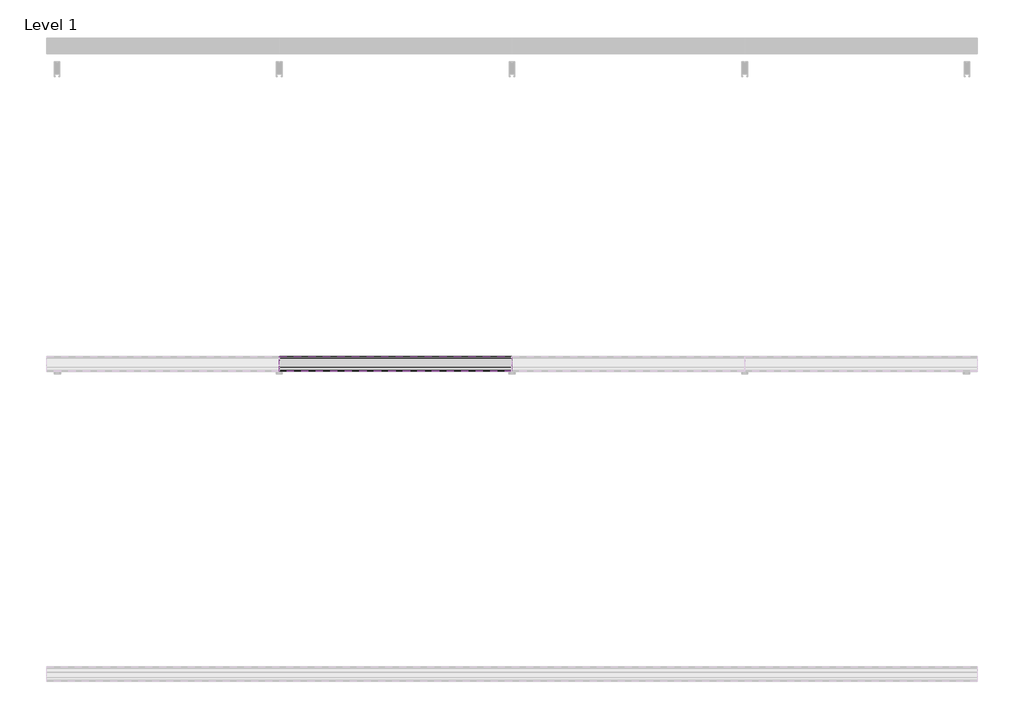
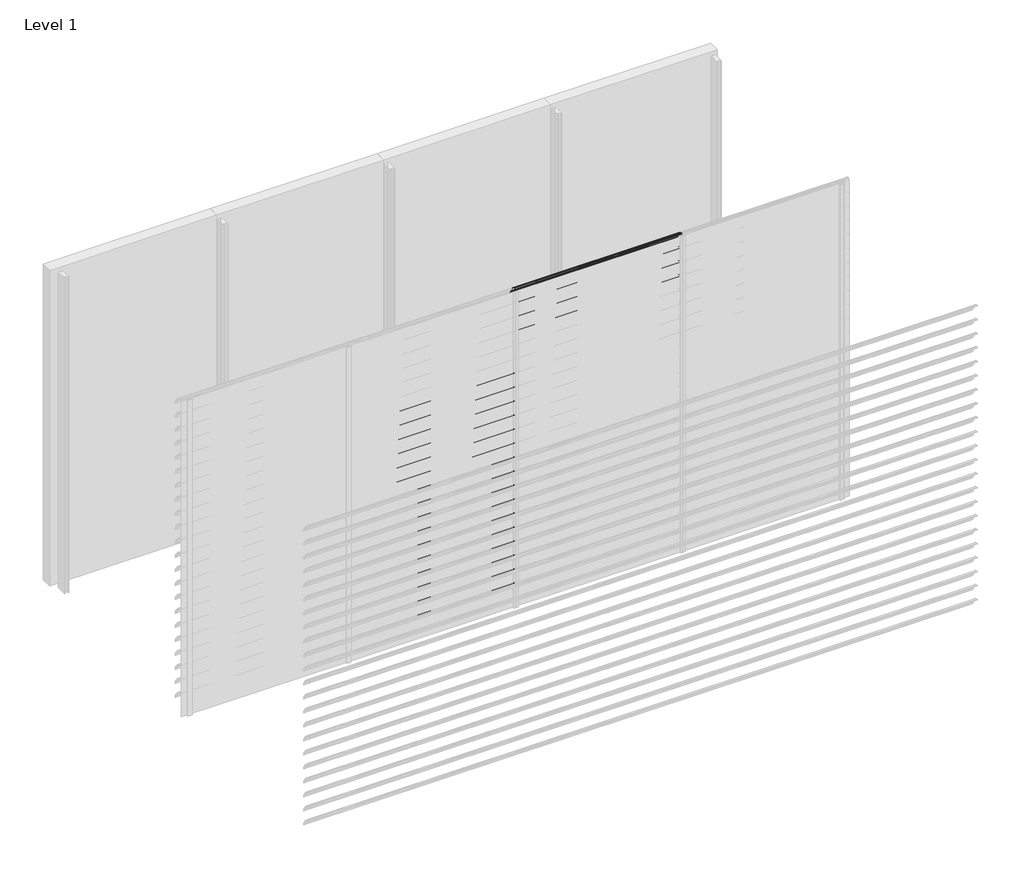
# One storey, part 33 of 57: 20 proxies.
"""IFC4 building model written with IfcOpenShell, lengths in millimetres."""

from ifc_helpers import new_model, si_unit, point, frame, frame_2d, origin, place, context, project, spatial, polyline, circle_curve, trimmed, segment, composite_curve, outline, extrude, element, save

model = new_model("IFC4")

# Units and contexts
model_context = context("Model", 3, world=origin())
ifc_project = project(units=[si_unit("LENGTHUNIT", "METRE", prefix="MILLI")], contexts=[model_context])

# Site, building, storey
site = spatial("IfcSite", under=ifc_project)
building = spatial("IfcBuilding", under=site)
storey = spatial("IfcBuildingStorey", under=building, Name="Level 1", Elevation=0.0)

# Proxies
placement = place(None, origin())
element("IfcBuildingElementProxy", 1, Name="Wall Sweeps", at=placement, inside=storey, context=model_context, shape_type="SweptSolid", body=[
    extrude(outline(composite_curve([segment(trimmed(circle_curve(frame_2d((-23993.7822526, 2218.4913792)), 4.2177474), [point((-23989.6985606, 2219.5462976))], [point((-23993.7822526, 2222.7091266))], False, "CARTESIAN"), True, "CONTINUOUS"), segment(trimmed(circle_curve(frame_2d((-24018.7150834, 2120.2536312)), 105.4456002), [point((-23993.7822526, 2222.7091266))], [point((-23971.7914298, 2214.6832099))], False, "CARTESIAN"), True, "CONTINUOUS"), segment(trimmed(circle_curve(frame_2d((-24061.7199745, 2066.0352476)), 173.7335887), [point((-23971.7914298, 2214.6832099))], [point((-23913.0720121, 2155.9637922))], False, "CARTESIAN"), True, "CONTINUOUS"), segment(trimmed(circle_curve(frame_2d((-24004.9297178, 2104.1860314)), 105.4456002), [point((-23913.0720121, 2155.9637922))], [point((-23903.6249616, 2133.4455765))], False, "CARTESIAN"), True, "CONTINUOUS"), segment(trimmed(circle_curve(frame_2d((-23907.809737, 2132.3307305)), 4.3307305), [point((-23903.6249616, 2133.4455765))], [point((-23909.0769196, 2128.189538))], False, "CARTESIAN"), True, "CONTINUOUS"), segment(polyline([(-23909.0769196, 2128.189538), (-23934.7401984, 2152.9722783)]), True, "CONTINUOUS"), segment(trimmed(circle_curve(frame_2d((-23931.3879574, 2155.2977626)), 4.079877), [point((-23934.7401984, 2152.9722783))], [point((-23930.7310597, 2159.3244091))], False, "CARTESIAN"), True, "CONTINUOUS"), segment(trimmed(circle_curve(frame_2d((-24014.6665585, 2137.2544323)), 86.7885467), [point((-23930.7310597, 2159.3244091))], [point((-23942.3028351, 2185.1683485))], True, "CARTESIAN"), True, "CONTINUOUS"), segment(polyline([(-23942.3028351, 2185.1683485), (-23940.7230099, 2187.9046861)]), True, "CONTINUOUS"), segment(trimmed(circle_curve(frame_2d((-24061.7199745, 2066.0352476)), 171.7335887), [point((-23940.7230099, 2187.9046861))], [point((-23972.7555872, 2212.9289618))], True, "CARTESIAN"), True, "CONTINUOUS"), segment(trimmed(circle_curve(frame_2d((-24018.7150834, 2120.2536312)), 103.4456002), [point((-23972.7555872, 2212.9289618))], [point((-23989.6985606, 2219.5462976))], True, "CARTESIAN"), True, "CONTINUOUS")], self_intersect=False)), frame((1500.0, 0.0, 0.0), z_axis=(1.0, 0.0, 0.0), x_axis=(0.0, 1.0, 0.0)), (0.0, 0.0, 1.0), 1500.0),
])
element("IfcBuildingElementProxy", 2, Name="Wall Sweeps", at=placement, inside=storey, context=model_context, shape_type="SweptSolid", body=[
    extrude(outline(composite_curve([segment(trimmed(circle_curve(frame_2d((-23993.7822526, 2085.4913792)), 4.2177474), [point((-23989.6985606, 2086.5462976))], [point((-23993.7822526, 2089.7091266))], False, "CARTESIAN"), True, "CONTINUOUS"), segment(trimmed(circle_curve(frame_2d((-24018.7150834, 1987.2536312)), 105.4456002), [point((-23993.7822526, 2089.7091266))], [point((-23971.7914298, 2081.6832099))], False, "CARTESIAN"), True, "CONTINUOUS"), segment(trimmed(circle_curve(frame_2d((-24061.7199745, 1933.0352476)), 173.7335887), [point((-23971.7914298, 2081.6832099))], [point((-23913.0720121, 2022.9637922))], False, "CARTESIAN"), True, "CONTINUOUS"), segment(trimmed(circle_curve(frame_2d((-24004.9297178, 1971.1860314)), 105.4456002), [point((-23913.0720121, 2022.9637922))], [point((-23903.6249616, 2000.4455765))], False, "CARTESIAN"), True, "CONTINUOUS"), segment(trimmed(circle_curve(frame_2d((-23907.809737, 1999.3307305)), 4.3307305), [point((-23903.6249616, 2000.4455765))], [point((-23909.0769196, 1995.189538))], False, "CARTESIAN"), True, "CONTINUOUS"), segment(polyline([(-23909.0769196, 1995.189538), (-23934.7401984, 2019.9722783)]), True, "CONTINUOUS"), segment(trimmed(circle_curve(frame_2d((-23931.3879574, 2022.2977626)), 4.079877), [point((-23934.7401984, 2019.9722783))], [point((-23930.7310597, 2026.3244091))], False, "CARTESIAN"), True, "CONTINUOUS"), segment(trimmed(circle_curve(frame_2d((-24014.6665585, 2004.2544323)), 86.7885467), [point((-23930.7310597, 2026.3244091))], [point((-23942.3028351, 2052.1683485))], True, "CARTESIAN"), True, "CONTINUOUS"), segment(polyline([(-23942.3028351, 2052.1683485), (-23940.7230099, 2054.9046861)]), True, "CONTINUOUS"), segment(trimmed(circle_curve(frame_2d((-24061.7199745, 1933.0352476)), 171.7335887), [point((-23940.7230099, 2054.9046861))], [point((-23972.7555872, 2079.9289618))], True, "CARTESIAN"), True, "CONTINUOUS"), segment(trimmed(circle_curve(frame_2d((-24018.7150834, 1987.2536312)), 103.4456002), [point((-23972.7555872, 2079.9289618))], [point((-23989.6985606, 2086.5462976))], True, "CARTESIAN"), True, "CONTINUOUS")], self_intersect=False)), frame((1500.0, 0.0, 0.0), z_axis=(1.0, 0.0, 0.0), x_axis=(0.0, 1.0, 0.0)), (0.0, 0.0, 1.0), 1500.0),
])
element("IfcBuildingElementProxy", 3, Name="Wall Sweeps", at=placement, inside=storey, context=model_context, shape_type="SweptSolid", body=[
    extrude(outline(composite_curve([segment(trimmed(circle_curve(frame_2d((-23993.7822526, 1952.4913792)), 4.2177474), [point((-23989.6985606, 1953.5462976))], [point((-23993.7822526, 1956.7091266))], False, "CARTESIAN"), True, "CONTINUOUS"), segment(trimmed(circle_curve(frame_2d((-24018.7150834, 1854.2536312)), 105.4456002), [point((-23993.7822526, 1956.7091266))], [point((-23971.7914298, 1948.6832099))], False, "CARTESIAN"), True, "CONTINUOUS"), segment(trimmed(circle_curve(frame_2d((-24061.7199745, 1800.0352476)), 173.7335887), [point((-23971.7914298, 1948.6832099))], [point((-23913.0720121, 1889.9637922))], False, "CARTESIAN"), True, "CONTINUOUS"), segment(trimmed(circle_curve(frame_2d((-24004.9297178, 1838.1860314)), 105.4456002), [point((-23913.0720121, 1889.9637922))], [point((-23903.6249616, 1867.4455765))], False, "CARTESIAN"), True, "CONTINUOUS"), segment(trimmed(circle_curve(frame_2d((-23907.809737, 1866.3307305)), 4.3307305), [point((-23903.6249616, 1867.4455765))], [point((-23909.0769196, 1862.189538))], False, "CARTESIAN"), True, "CONTINUOUS"), segment(polyline([(-23909.0769196, 1862.189538), (-23934.7401984, 1886.9722783)]), True, "CONTINUOUS"), segment(trimmed(circle_curve(frame_2d((-23931.3879574, 1889.2977626)), 4.079877), [point((-23934.7401984, 1886.9722783))], [point((-23930.7310597, 1893.3244091))], False, "CARTESIAN"), True, "CONTINUOUS"), segment(trimmed(circle_curve(frame_2d((-24014.6665585, 1871.2544323)), 86.7885467), [point((-23930.7310597, 1893.3244091))], [point((-23942.3028351, 1919.1683485))], True, "CARTESIAN"), True, "CONTINUOUS"), segment(polyline([(-23942.3028351, 1919.1683485), (-23940.7230099, 1921.9046861)]), True, "CONTINUOUS"), segment(trimmed(circle_curve(frame_2d((-24061.7199745, 1800.0352476)), 171.7335887), [point((-23940.7230099, 1921.9046861))], [point((-23972.7555872, 1946.9289618))], True, "CARTESIAN"), True, "CONTINUOUS"), segment(trimmed(circle_curve(frame_2d((-24018.7150834, 1854.2536312)), 103.4456002), [point((-23972.7555872, 1946.9289618))], [point((-23989.6985606, 1953.5462976))], True, "CARTESIAN"), True, "CONTINUOUS")], self_intersect=False)), frame((1500.0, 0.0, 0.0), z_axis=(1.0, 0.0, 0.0), x_axis=(0.0, 1.0, 0.0)), (0.0, 0.0, 1.0), 1500.0),
])
element("IfcBuildingElementProxy", 4, Name="Wall Sweeps", at=placement, inside=storey, context=model_context, shape_type="SweptSolid", body=[
    extrude(outline(composite_curve([segment(trimmed(circle_curve(frame_2d((-23993.7822526, 1819.4913792)), 4.2177474), [point((-23989.6985606, 1820.5462976))], [point((-23993.7822526, 1823.7091266))], False, "CARTESIAN"), True, "CONTINUOUS"), segment(trimmed(circle_curve(frame_2d((-24018.7150834, 1721.2536312)), 105.4456002), [point((-23993.7822526, 1823.7091266))], [point((-23971.7914298, 1815.6832099))], False, "CARTESIAN"), True, "CONTINUOUS"), segment(trimmed(circle_curve(frame_2d((-24061.7199745, 1667.0352476)), 173.7335887), [point((-23971.7914298, 1815.6832099))], [point((-23913.0720121, 1756.9637922))], False, "CARTESIAN"), True, "CONTINUOUS"), segment(trimmed(circle_curve(frame_2d((-24004.9297178, 1705.1860314)), 105.4456002), [point((-23913.0720121, 1756.9637922))], [point((-23903.6249616, 1734.4455765))], False, "CARTESIAN"), True, "CONTINUOUS"), segment(trimmed(circle_curve(frame_2d((-23907.809737, 1733.3307305)), 4.3307305), [point((-23903.6249616, 1734.4455765))], [point((-23909.0769196, 1729.189538))], False, "CARTESIAN"), True, "CONTINUOUS"), segment(polyline([(-23909.0769196, 1729.189538), (-23934.7401984, 1753.9722783)]), True, "CONTINUOUS"), segment(trimmed(circle_curve(frame_2d((-23931.3879574, 1756.2977626)), 4.079877), [point((-23934.7401984, 1753.9722783))], [point((-23930.7310597, 1760.3244091))], False, "CARTESIAN"), True, "CONTINUOUS"), segment(trimmed(circle_curve(frame_2d((-24014.6665585, 1738.2544323)), 86.7885467), [point((-23930.7310597, 1760.3244091))], [point((-23942.3028351, 1786.1683485))], True, "CARTESIAN"), True, "CONTINUOUS"), segment(polyline([(-23942.3028351, 1786.1683485), (-23940.7230099, 1788.9046861)]), True, "CONTINUOUS"), segment(trimmed(circle_curve(frame_2d((-24061.7199745, 1667.0352476)), 171.7335887), [point((-23940.7230099, 1788.9046861))], [point((-23972.7555872, 1813.9289618))], True, "CARTESIAN"), True, "CONTINUOUS"), segment(trimmed(circle_curve(frame_2d((-24018.7150834, 1721.2536312)), 103.4456002), [point((-23972.7555872, 1813.9289618))], [point((-23989.6985606, 1820.5462976))], True, "CARTESIAN"), True, "CONTINUOUS")], self_intersect=False)), frame((1500.0, 0.0, 0.0), z_axis=(1.0, 0.0, 0.0), x_axis=(0.0, 1.0, 0.0)), (0.0, 0.0, 1.0), 1500.0),
])
element("IfcBuildingElementProxy", 5, Name="Wall Sweeps", at=placement, inside=storey, context=model_context, shape_type="SweptSolid", body=[
    extrude(outline(composite_curve([segment(trimmed(circle_curve(frame_2d((-23993.7822526, 1686.4913792)), 4.2177474), [point((-23989.6985606, 1687.5462976))], [point((-23993.7822526, 1690.7091266))], False, "CARTESIAN"), True, "CONTINUOUS"), segment(trimmed(circle_curve(frame_2d((-24018.7150834, 1588.2536312)), 105.4456002), [point((-23993.7822526, 1690.7091266))], [point((-23971.7914298, 1682.6832099))], False, "CARTESIAN"), True, "CONTINUOUS"), segment(trimmed(circle_curve(frame_2d((-24061.7199745, 1534.0352476)), 173.7335887), [point((-23971.7914298, 1682.6832099))], [point((-23913.0720121, 1623.9637922))], False, "CARTESIAN"), True, "CONTINUOUS"), segment(trimmed(circle_curve(frame_2d((-24004.9297178, 1572.1860314)), 105.4456002), [point((-23913.0720121, 1623.9637922))], [point((-23903.6249616, 1601.4455765))], False, "CARTESIAN"), True, "CONTINUOUS"), segment(trimmed(circle_curve(frame_2d((-23907.809737, 1600.3307305)), 4.3307305), [point((-23903.6249616, 1601.4455765))], [point((-23909.0769196, 1596.189538))], False, "CARTESIAN"), True, "CONTINUOUS"), segment(polyline([(-23909.0769196, 1596.189538), (-23934.7401984, 1620.9722783)]), True, "CONTINUOUS"), segment(trimmed(circle_curve(frame_2d((-23931.3879574, 1623.2977626)), 4.079877), [point((-23934.7401984, 1620.9722783))], [point((-23930.7310597, 1627.3244091))], False, "CARTESIAN"), True, "CONTINUOUS"), segment(trimmed(circle_curve(frame_2d((-24014.6665585, 1605.2544323)), 86.7885467), [point((-23930.7310597, 1627.3244091))], [point((-23942.3028351, 1653.1683485))], True, "CARTESIAN"), True, "CONTINUOUS"), segment(polyline([(-23942.3028351, 1653.1683485), (-23940.7230099, 1655.9046861)]), True, "CONTINUOUS"), segment(trimmed(circle_curve(frame_2d((-24061.7199745, 1534.0352476)), 171.7335887), [point((-23940.7230099, 1655.9046861))], [point((-23972.7555872, 1680.9289618))], True, "CARTESIAN"), True, "CONTINUOUS"), segment(trimmed(circle_curve(frame_2d((-24018.7150834, 1588.2536312)), 103.4456002), [point((-23972.7555872, 1680.9289618))], [point((-23989.6985606, 1687.5462976))], True, "CARTESIAN"), True, "CONTINUOUS")], self_intersect=False)), frame((1500.0, 0.0, 0.0), z_axis=(1.0, 0.0, 0.0), x_axis=(0.0, 1.0, 0.0)), (0.0, 0.0, 1.0), 1500.0),
])
element("IfcBuildingElementProxy", 6, Name="Wall Sweeps", at=placement, inside=storey, context=model_context, shape_type="SweptSolid", body=[
    extrude(outline(composite_curve([segment(trimmed(circle_curve(frame_2d((-23993.7822526, 1553.4913792)), 4.2177474), [point((-23989.6985606, 1554.5462976))], [point((-23993.7822526, 1557.7091266))], False, "CARTESIAN"), True, "CONTINUOUS"), segment(trimmed(circle_curve(frame_2d((-24018.7150834, 1455.2536312)), 105.4456002), [point((-23993.7822526, 1557.7091266))], [point((-23971.7914298, 1549.6832099))], False, "CARTESIAN"), True, "CONTINUOUS"), segment(trimmed(circle_curve(frame_2d((-24061.7199745, 1401.0352476)), 173.7335887), [point((-23971.7914298, 1549.6832099))], [point((-23913.0720121, 1490.9637922))], False, "CARTESIAN"), True, "CONTINUOUS"), segment(trimmed(circle_curve(frame_2d((-24004.9297178, 1439.1860314)), 105.4456002), [point((-23913.0720121, 1490.9637922))], [point((-23903.6249616, 1468.4455765))], False, "CARTESIAN"), True, "CONTINUOUS"), segment(trimmed(circle_curve(frame_2d((-23907.809737, 1467.3307305)), 4.3307305), [point((-23903.6249616, 1468.4455765))], [point((-23909.0769196, 1463.189538))], False, "CARTESIAN"), True, "CONTINUOUS"), segment(polyline([(-23909.0769196, 1463.189538), (-23934.7401984, 1487.9722783)]), True, "CONTINUOUS"), segment(trimmed(circle_curve(frame_2d((-23931.3879574, 1490.2977626)), 4.079877), [point((-23934.7401984, 1487.9722783))], [point((-23930.7310597, 1494.3244091))], False, "CARTESIAN"), True, "CONTINUOUS"), segment(trimmed(circle_curve(frame_2d((-24014.6665585, 1472.2544323)), 86.7885467), [point((-23930.7310597, 1494.3244091))], [point((-23942.3028351, 1520.1683485))], True, "CARTESIAN"), True, "CONTINUOUS"), segment(polyline([(-23942.3028351, 1520.1683485), (-23940.7230099, 1522.9046861)]), True, "CONTINUOUS"), segment(trimmed(circle_curve(frame_2d((-24061.7199745, 1401.0352476)), 171.7335887), [point((-23940.7230099, 1522.9046861))], [point((-23972.7555872, 1547.9289618))], True, "CARTESIAN"), True, "CONTINUOUS"), segment(trimmed(circle_curve(frame_2d((-24018.7150834, 1455.2536312)), 103.4456002), [point((-23972.7555872, 1547.9289618))], [point((-23989.6985606, 1554.5462976))], True, "CARTESIAN"), True, "CONTINUOUS")], self_intersect=False)), frame((1500.0, 0.0, 0.0), z_axis=(1.0, 0.0, 0.0), x_axis=(0.0, 1.0, 0.0)), (0.0, 0.0, 1.0), 1500.0),
])
element("IfcBuildingElementProxy", 7, Name="Wall Sweeps", at=placement, inside=storey, context=model_context, shape_type="SweptSolid", body=[
    extrude(outline(composite_curve([segment(trimmed(circle_curve(frame_2d((-23993.7822526, 1420.4913792)), 4.2177474), [point((-23989.6985606, 1421.5462976))], [point((-23993.7822526, 1424.7091266))], False, "CARTESIAN"), True, "CONTINUOUS"), segment(trimmed(circle_curve(frame_2d((-24018.7150834, 1322.2536312)), 105.4456002), [point((-23993.7822526, 1424.7091266))], [point((-23971.7914298, 1416.6832099))], False, "CARTESIAN"), True, "CONTINUOUS"), segment(trimmed(circle_curve(frame_2d((-24061.7199745, 1268.0352476)), 173.7335887), [point((-23971.7914298, 1416.6832099))], [point((-23913.0720121, 1357.9637922))], False, "CARTESIAN"), True, "CONTINUOUS"), segment(trimmed(circle_curve(frame_2d((-24004.9297178, 1306.1860314)), 105.4456002), [point((-23913.0720121, 1357.9637922))], [point((-23903.6249616, 1335.4455765))], False, "CARTESIAN"), True, "CONTINUOUS"), segment(trimmed(circle_curve(frame_2d((-23907.809737, 1334.3307305)), 4.3307305), [point((-23903.6249616, 1335.4455765))], [point((-23909.0769196, 1330.189538))], False, "CARTESIAN"), True, "CONTINUOUS"), segment(polyline([(-23909.0769196, 1330.189538), (-23934.7401984, 1354.9722783)]), True, "CONTINUOUS"), segment(trimmed(circle_curve(frame_2d((-23931.3879574, 1357.2977626)), 4.079877), [point((-23934.7401984, 1354.9722783))], [point((-23930.7310597, 1361.3244091))], False, "CARTESIAN"), True, "CONTINUOUS"), segment(trimmed(circle_curve(frame_2d((-24014.6665585, 1339.2544323)), 86.7885467), [point((-23930.7310597, 1361.3244091))], [point((-23942.3028351, 1387.1683485))], True, "CARTESIAN"), True, "CONTINUOUS"), segment(polyline([(-23942.3028351, 1387.1683485), (-23940.7230099, 1389.9046861)]), True, "CONTINUOUS"), segment(trimmed(circle_curve(frame_2d((-24061.7199745, 1268.0352476)), 171.7335887), [point((-23940.7230099, 1389.9046861))], [point((-23972.7555872, 1414.9289618))], True, "CARTESIAN"), True, "CONTINUOUS"), segment(trimmed(circle_curve(frame_2d((-24018.7150834, 1322.2536312)), 103.4456002), [point((-23972.7555872, 1414.9289618))], [point((-23989.6985606, 1421.5462976))], True, "CARTESIAN"), True, "CONTINUOUS")], self_intersect=False)), frame((1500.0, 0.0, 0.0), z_axis=(1.0, 0.0, 0.0), x_axis=(0.0, 1.0, 0.0)), (0.0, 0.0, 1.0), 1500.0),
])
element("IfcBuildingElementProxy", 8, Name="Wall Sweeps", at=placement, inside=storey, context=model_context, shape_type="SweptSolid", body=[
    extrude(outline(composite_curve([segment(trimmed(circle_curve(frame_2d((-23993.7822526, 1287.4913792)), 4.2177474), [point((-23989.6985606, 1288.5462976))], [point((-23993.7822526, 1291.7091266))], False, "CARTESIAN"), True, "CONTINUOUS"), segment(trimmed(circle_curve(frame_2d((-24018.7150834, 1189.2536312)), 105.4456002), [point((-23993.7822526, 1291.7091266))], [point((-23971.7914298, 1283.6832099))], False, "CARTESIAN"), True, "CONTINUOUS"), segment(trimmed(circle_curve(frame_2d((-24061.7199745, 1135.0352476)), 173.7335887), [point((-23971.7914298, 1283.6832099))], [point((-23913.0720121, 1224.9637922))], False, "CARTESIAN"), True, "CONTINUOUS"), segment(trimmed(circle_curve(frame_2d((-24004.9297178, 1173.1860314)), 105.4456002), [point((-23913.0720121, 1224.9637922))], [point((-23903.6249616, 1202.4455765))], False, "CARTESIAN"), True, "CONTINUOUS"), segment(trimmed(circle_curve(frame_2d((-23907.809737, 1201.3307305)), 4.3307305), [point((-23903.6249616, 1202.4455765))], [point((-23909.0769196, 1197.189538))], False, "CARTESIAN"), True, "CONTINUOUS"), segment(polyline([(-23909.0769196, 1197.189538), (-23934.7401984, 1221.9722783)]), True, "CONTINUOUS"), segment(trimmed(circle_curve(frame_2d((-23931.3879574, 1224.2977626)), 4.079877), [point((-23934.7401984, 1221.9722783))], [point((-23930.7310597, 1228.3244091))], False, "CARTESIAN"), True, "CONTINUOUS"), segment(trimmed(circle_curve(frame_2d((-24014.6665585, 1206.2544323)), 86.7885467), [point((-23930.7310597, 1228.3244091))], [point((-23942.3028351, 1254.1683485))], True, "CARTESIAN"), True, "CONTINUOUS"), segment(polyline([(-23942.3028351, 1254.1683485), (-23940.7230099, 1256.9046861)]), True, "CONTINUOUS"), segment(trimmed(circle_curve(frame_2d((-24061.7199745, 1135.0352476)), 171.7335887), [point((-23940.7230099, 1256.9046861))], [point((-23972.7555872, 1281.9289618))], True, "CARTESIAN"), True, "CONTINUOUS"), segment(trimmed(circle_curve(frame_2d((-24018.7150834, 1189.2536312)), 103.4456002), [point((-23972.7555872, 1281.9289618))], [point((-23989.6985606, 1288.5462976))], True, "CARTESIAN"), True, "CONTINUOUS")], self_intersect=False)), frame((1500.0, 0.0, 0.0), z_axis=(1.0, 0.0, 0.0), x_axis=(0.0, 1.0, 0.0)), (0.0, 0.0, 1.0), 1500.0),
])
element("IfcBuildingElementProxy", 9, Name="Wall Sweeps", at=placement, inside=storey, context=model_context, shape_type="SweptSolid", body=[
    extrude(outline(composite_curve([segment(trimmed(circle_curve(frame_2d((-23993.7822526, 1154.4913792)), 4.2177474), [point((-23989.6985606, 1155.5462976))], [point((-23993.7822526, 1158.7091266))], False, "CARTESIAN"), True, "CONTINUOUS"), segment(trimmed(circle_curve(frame_2d((-24018.7150834, 1056.2536312)), 105.4456002), [point((-23993.7822526, 1158.7091266))], [point((-23971.7914298, 1150.6832099))], False, "CARTESIAN"), True, "CONTINUOUS"), segment(trimmed(circle_curve(frame_2d((-24061.7199745, 1002.0352476)), 173.7335887), [point((-23971.7914298, 1150.6832099))], [point((-23913.0720121, 1091.9637922))], False, "CARTESIAN"), True, "CONTINUOUS"), segment(trimmed(circle_curve(frame_2d((-24004.9297178, 1040.1860314)), 105.4456002), [point((-23913.0720121, 1091.9637922))], [point((-23903.6249616, 1069.4455765))], False, "CARTESIAN"), True, "CONTINUOUS"), segment(trimmed(circle_curve(frame_2d((-23907.809737, 1068.3307305)), 4.3307305), [point((-23903.6249616, 1069.4455765))], [point((-23909.0769196, 1064.189538))], False, "CARTESIAN"), True, "CONTINUOUS"), segment(polyline([(-23909.0769196, 1064.189538), (-23934.7401984, 1088.9722783)]), True, "CONTINUOUS"), segment(trimmed(circle_curve(frame_2d((-23931.3879574, 1091.2977626)), 4.079877), [point((-23934.7401984, 1088.9722783))], [point((-23930.7310597, 1095.3244091))], False, "CARTESIAN"), True, "CONTINUOUS"), segment(trimmed(circle_curve(frame_2d((-24014.6665585, 1073.2544323)), 86.7885467), [point((-23930.7310597, 1095.3244091))], [point((-23942.3028351, 1121.1683485))], True, "CARTESIAN"), True, "CONTINUOUS"), segment(polyline([(-23942.3028351, 1121.1683485), (-23940.7230099, 1123.9046861)]), True, "CONTINUOUS"), segment(trimmed(circle_curve(frame_2d((-24061.7199745, 1002.0352476)), 171.7335887), [point((-23940.7230099, 1123.9046861))], [point((-23972.7555872, 1148.9289618))], True, "CARTESIAN"), True, "CONTINUOUS"), segment(trimmed(circle_curve(frame_2d((-24018.7150834, 1056.2536312)), 103.4456002), [point((-23972.7555872, 1148.9289618))], [point((-23989.6985606, 1155.5462976))], True, "CARTESIAN"), True, "CONTINUOUS")], self_intersect=False)), frame((1500.0, 0.0, 0.0), z_axis=(1.0, 0.0, 0.0), x_axis=(0.0, 1.0, 0.0)), (0.0, 0.0, 1.0), 1500.0),
])
element("IfcBuildingElementProxy", 10, Name="Wall Sweeps", at=placement, inside=storey, context=model_context, shape_type="SweptSolid", body=[
    extrude(outline(composite_curve([segment(trimmed(circle_curve(frame_2d((-23993.7822526, 1021.4913792)), 4.2177474), [point((-23989.6985606, 1022.5462976))], [point((-23993.7822526, 1025.7091266))], False, "CARTESIAN"), True, "CONTINUOUS"), segment(trimmed(circle_curve(frame_2d((-24018.7150834, 923.2536312)), 105.4456002), [point((-23993.7822526, 1025.7091266))], [point((-23971.7914298, 1017.6832099))], False, "CARTESIAN"), True, "CONTINUOUS"), segment(trimmed(circle_curve(frame_2d((-24061.7199745, 869.0352476)), 173.7335887), [point((-23971.7914298, 1017.6832099))], [point((-23913.0720121, 958.9637922))], False, "CARTESIAN"), True, "CONTINUOUS"), segment(trimmed(circle_curve(frame_2d((-24004.9297178, 907.1860314)), 105.4456002), [point((-23913.0720121, 958.9637922))], [point((-23903.6249616, 936.4455765))], False, "CARTESIAN"), True, "CONTINUOUS"), segment(trimmed(circle_curve(frame_2d((-23907.809737, 935.3307305)), 4.3307305), [point((-23903.6249616, 936.4455765))], [point((-23909.0769196, 931.189538))], False, "CARTESIAN"), True, "CONTINUOUS"), segment(polyline([(-23909.0769196, 931.189538), (-23934.7401984, 955.9722783)]), True, "CONTINUOUS"), segment(trimmed(circle_curve(frame_2d((-23931.3879574, 958.2977626)), 4.079877), [point((-23934.7401984, 955.9722783))], [point((-23930.7310597, 962.3244091))], False, "CARTESIAN"), True, "CONTINUOUS"), segment(trimmed(circle_curve(frame_2d((-24014.6665585, 940.2544323)), 86.7885467), [point((-23930.7310597, 962.3244091))], [point((-23942.3028351, 988.1683485))], True, "CARTESIAN"), True, "CONTINUOUS"), segment(polyline([(-23942.3028351, 988.1683485), (-23940.7230099, 990.9046861)]), True, "CONTINUOUS"), segment(trimmed(circle_curve(frame_2d((-24061.7199745, 869.0352476)), 171.7335887), [point((-23940.7230099, 990.9046861))], [point((-23972.7555872, 1015.9289618))], True, "CARTESIAN"), True, "CONTINUOUS"), segment(trimmed(circle_curve(frame_2d((-24018.7150834, 923.2536312)), 103.4456002), [point((-23972.7555872, 1015.9289618))], [point((-23989.6985606, 1022.5462976))], True, "CARTESIAN"), True, "CONTINUOUS")], self_intersect=False)), frame((1500.0, 0.0, 0.0), z_axis=(1.0, 0.0, 0.0), x_axis=(0.0, 1.0, 0.0)), (0.0, 0.0, 1.0), 1500.0),
])
element("IfcBuildingElementProxy", 11, Name="Wall Sweeps", at=placement, inside=storey, context=model_context, shape_type="SweptSolid", body=[
    extrude(outline(composite_curve([segment(trimmed(circle_curve(frame_2d((-23993.7822526, 888.4913792)), 4.2177474), [point((-23989.6985606, 889.5462976))], [point((-23993.7822526, 892.7091266))], False, "CARTESIAN"), True, "CONTINUOUS"), segment(trimmed(circle_curve(frame_2d((-24018.7150834, 790.2536312)), 105.4456002), [point((-23993.7822526, 892.7091266))], [point((-23971.7914298, 884.6832099))], False, "CARTESIAN"), True, "CONTINUOUS"), segment(trimmed(circle_curve(frame_2d((-24061.7199745, 736.0352476)), 173.7335887), [point((-23971.7914298, 884.6832099))], [point((-23913.0720121, 825.9637922))], False, "CARTESIAN"), True, "CONTINUOUS"), segment(trimmed(circle_curve(frame_2d((-24004.9297178, 774.1860314)), 105.4456002), [point((-23913.0720121, 825.9637922))], [point((-23903.6249616, 803.4455765))], False, "CARTESIAN"), True, "CONTINUOUS"), segment(trimmed(circle_curve(frame_2d((-23907.809737, 802.3307305)), 4.3307305), [point((-23903.6249616, 803.4455765))], [point((-23909.0769196, 798.189538))], False, "CARTESIAN"), True, "CONTINUOUS"), segment(polyline([(-23909.0769196, 798.189538), (-23934.7401984, 822.9722783)]), True, "CONTINUOUS"), segment(trimmed(circle_curve(frame_2d((-23931.3879574, 825.2977626)), 4.079877), [point((-23934.7401984, 822.9722783))], [point((-23930.7310597, 829.3244091))], False, "CARTESIAN"), True, "CONTINUOUS"), segment(trimmed(circle_curve(frame_2d((-24014.6665585, 807.2544323)), 86.7885467), [point((-23930.7310597, 829.3244091))], [point((-23942.3028351, 855.1683485))], True, "CARTESIAN"), True, "CONTINUOUS"), segment(polyline([(-23942.3028351, 855.1683485), (-23940.7230099, 857.9046861)]), True, "CONTINUOUS"), segment(trimmed(circle_curve(frame_2d((-24061.7199745, 736.0352476)), 171.7335887), [point((-23940.7230099, 857.9046861))], [point((-23972.7555872, 882.9289618))], True, "CARTESIAN"), True, "CONTINUOUS"), segment(trimmed(circle_curve(frame_2d((-24018.7150834, 790.2536312)), 103.4456002), [point((-23972.7555872, 882.9289618))], [point((-23989.6985606, 889.5462976))], True, "CARTESIAN"), True, "CONTINUOUS")], self_intersect=False)), frame((1500.0, 0.0, 0.0), z_axis=(1.0, 0.0, 0.0), x_axis=(0.0, 1.0, 0.0)), (0.0, 0.0, 1.0), 1500.0),
])
element("IfcBuildingElementProxy", 12, Name="Wall Sweeps", at=placement, inside=storey, context=model_context, shape_type="SweptSolid", body=[
    extrude(outline(composite_curve([segment(trimmed(circle_curve(frame_2d((-23993.7822526, 755.4913792)), 4.2177474), [point((-23989.6985606, 756.5462976))], [point((-23993.7822526, 759.7091266))], False, "CARTESIAN"), True, "CONTINUOUS"), segment(trimmed(circle_curve(frame_2d((-24018.7150834, 657.2536312)), 105.4456002), [point((-23993.7822526, 759.7091266))], [point((-23971.7914298, 751.6832099))], False, "CARTESIAN"), True, "CONTINUOUS"), segment(trimmed(circle_curve(frame_2d((-24061.7199745, 603.0352476)), 173.7335887), [point((-23971.7914298, 751.6832099))], [point((-23913.0720121, 692.9637922))], False, "CARTESIAN"), True, "CONTINUOUS"), segment(trimmed(circle_curve(frame_2d((-24004.9297178, 641.1860314)), 105.4456002), [point((-23913.0720121, 692.9637922))], [point((-23903.6249616, 670.4455765))], False, "CARTESIAN"), True, "CONTINUOUS"), segment(trimmed(circle_curve(frame_2d((-23907.809737, 669.3307305)), 4.3307305), [point((-23903.6249616, 670.4455765))], [point((-23909.0769196, 665.189538))], False, "CARTESIAN"), True, "CONTINUOUS"), segment(polyline([(-23909.0769196, 665.189538), (-23934.7401984, 689.9722783)]), True, "CONTINUOUS"), segment(trimmed(circle_curve(frame_2d((-23931.3879574, 692.2977626)), 4.079877), [point((-23934.7401984, 689.9722783))], [point((-23930.7310597, 696.3244091))], False, "CARTESIAN"), True, "CONTINUOUS"), segment(trimmed(circle_curve(frame_2d((-24014.6665585, 674.2544323)), 86.7885467), [point((-23930.7310597, 696.3244091))], [point((-23942.3028351, 722.1683485))], True, "CARTESIAN"), True, "CONTINUOUS"), segment(polyline([(-23942.3028351, 722.1683485), (-23940.7230099, 724.9046861)]), True, "CONTINUOUS"), segment(trimmed(circle_curve(frame_2d((-24061.7199745, 603.0352476)), 171.7335887), [point((-23940.7230099, 724.9046861))], [point((-23972.7555872, 749.9289618))], True, "CARTESIAN"), True, "CONTINUOUS"), segment(trimmed(circle_curve(frame_2d((-24018.7150834, 657.2536312)), 103.4456002), [point((-23972.7555872, 749.9289618))], [point((-23989.6985606, 756.5462976))], True, "CARTESIAN"), True, "CONTINUOUS")], self_intersect=False)), frame((1500.0, 0.0, 0.0), z_axis=(1.0, 0.0, 0.0), x_axis=(0.0, 1.0, 0.0)), (0.0, 0.0, 1.0), 1500.0),
])
element("IfcBuildingElementProxy", 13, Name="Wall Sweeps", at=placement, inside=storey, context=model_context, shape_type="SweptSolid", body=[
    extrude(outline(composite_curve([segment(trimmed(circle_curve(frame_2d((-23993.7822526, 622.4913792)), 4.2177474), [point((-23989.6985606, 623.5462976))], [point((-23993.7822526, 626.7091266))], False, "CARTESIAN"), True, "CONTINUOUS"), segment(trimmed(circle_curve(frame_2d((-24018.7150834, 524.2536312)), 105.4456002), [point((-23993.7822526, 626.7091266))], [point((-23971.7914298, 618.6832099))], False, "CARTESIAN"), True, "CONTINUOUS"), segment(trimmed(circle_curve(frame_2d((-24061.7199745, 470.0352476)), 173.7335887), [point((-23971.7914298, 618.6832099))], [point((-23913.0720121, 559.9637922))], False, "CARTESIAN"), True, "CONTINUOUS"), segment(trimmed(circle_curve(frame_2d((-24004.9297178, 508.1860314)), 105.4456002), [point((-23913.0720121, 559.9637922))], [point((-23903.6249616, 537.4455765))], False, "CARTESIAN"), True, "CONTINUOUS"), segment(trimmed(circle_curve(frame_2d((-23907.809737, 536.3307305)), 4.3307305), [point((-23903.6249616, 537.4455765))], [point((-23909.0769196, 532.189538))], False, "CARTESIAN"), True, "CONTINUOUS"), segment(polyline([(-23909.0769196, 532.189538), (-23934.7401984, 556.9722783)]), True, "CONTINUOUS"), segment(trimmed(circle_curve(frame_2d((-23931.3879574, 559.2977626)), 4.079877), [point((-23934.7401984, 556.9722783))], [point((-23930.7310597, 563.3244091))], False, "CARTESIAN"), True, "CONTINUOUS"), segment(trimmed(circle_curve(frame_2d((-24014.6665585, 541.2544323)), 86.7885467), [point((-23930.7310597, 563.3244091))], [point((-23942.3028351, 589.1683485))], True, "CARTESIAN"), True, "CONTINUOUS"), segment(polyline([(-23942.3028351, 589.1683485), (-23940.7230099, 591.9046861)]), True, "CONTINUOUS"), segment(trimmed(circle_curve(frame_2d((-24061.7199745, 470.0352476)), 171.7335887), [point((-23940.7230099, 591.9046861))], [point((-23972.7555872, 616.9289618))], True, "CARTESIAN"), True, "CONTINUOUS"), segment(trimmed(circle_curve(frame_2d((-24018.7150834, 524.2536312)), 103.4456002), [point((-23972.7555872, 616.9289618))], [point((-23989.6985606, 623.5462976))], True, "CARTESIAN"), True, "CONTINUOUS")], self_intersect=False)), frame((1500.0, 0.0, 0.0), z_axis=(1.0, 0.0, 0.0), x_axis=(0.0, 1.0, 0.0)), (0.0, 0.0, 1.0), 1500.0),
])
element("IfcBuildingElementProxy", 14, Name="Wall Sweeps", at=placement, inside=storey, context=model_context, shape_type="SweptSolid", body=[
    extrude(outline(composite_curve([segment(trimmed(circle_curve(frame_2d((-23993.7822526, 489.4913792)), 4.2177474), [point((-23989.6985606, 490.5462976))], [point((-23993.7822526, 493.7091266))], False, "CARTESIAN"), True, "CONTINUOUS"), segment(trimmed(circle_curve(frame_2d((-24018.7150834, 391.2536312)), 105.4456002), [point((-23993.7822526, 493.7091266))], [point((-23971.7914298, 485.6832099))], False, "CARTESIAN"), True, "CONTINUOUS"), segment(trimmed(circle_curve(frame_2d((-24061.7199745, 337.0352476)), 173.7335887), [point((-23971.7914298, 485.6832099))], [point((-23913.0720121, 426.9637922))], False, "CARTESIAN"), True, "CONTINUOUS"), segment(trimmed(circle_curve(frame_2d((-24004.9297178, 375.1860314)), 105.4456002), [point((-23913.0720121, 426.9637922))], [point((-23903.6249616, 404.4455765))], False, "CARTESIAN"), True, "CONTINUOUS"), segment(trimmed(circle_curve(frame_2d((-23907.809737, 403.3307305)), 4.3307305), [point((-23903.6249616, 404.4455765))], [point((-23909.0769196, 399.189538))], False, "CARTESIAN"), True, "CONTINUOUS"), segment(polyline([(-23909.0769196, 399.189538), (-23934.7401984, 423.9722783)]), True, "CONTINUOUS"), segment(trimmed(circle_curve(frame_2d((-23931.3879574, 426.2977626)), 4.079877), [point((-23934.7401984, 423.9722783))], [point((-23930.7310597, 430.3244091))], False, "CARTESIAN"), True, "CONTINUOUS"), segment(trimmed(circle_curve(frame_2d((-24014.6665585, 408.2544323)), 86.7885467), [point((-23930.7310597, 430.3244091))], [point((-23942.3028351, 456.1683485))], True, "CARTESIAN"), True, "CONTINUOUS"), segment(polyline([(-23942.3028351, 456.1683485), (-23940.7230099, 458.9046861)]), True, "CONTINUOUS"), segment(trimmed(circle_curve(frame_2d((-24061.7199745, 337.0352476)), 171.7335887), [point((-23940.7230099, 458.9046861))], [point((-23972.7555872, 483.9289618))], True, "CARTESIAN"), True, "CONTINUOUS"), segment(trimmed(circle_curve(frame_2d((-24018.7150834, 391.2536312)), 103.4456002), [point((-23972.7555872, 483.9289618))], [point((-23989.6985606, 490.5462976))], True, "CARTESIAN"), True, "CONTINUOUS")], self_intersect=False)), frame((1500.0, 0.0, 0.0), z_axis=(1.0, 0.0, 0.0), x_axis=(0.0, 1.0, 0.0)), (0.0, 0.0, 1.0), 1500.0),
])
element("IfcBuildingElementProxy", 15, Name="Wall Sweeps", at=placement, inside=storey, context=model_context, shape_type="SweptSolid", body=[
    extrude(outline(composite_curve([segment(trimmed(circle_curve(frame_2d((-23993.7822526, 356.4913792)), 4.2177474), [point((-23989.6985606, 357.5462976))], [point((-23993.7822526, 360.7091266))], False, "CARTESIAN"), True, "CONTINUOUS"), segment(trimmed(circle_curve(frame_2d((-24018.7150834, 258.2536312)), 105.4456002), [point((-23993.7822526, 360.7091266))], [point((-23971.7914298, 352.6832099))], False, "CARTESIAN"), True, "CONTINUOUS"), segment(trimmed(circle_curve(frame_2d((-24061.7199745, 204.0352476)), 173.7335887), [point((-23971.7914298, 352.6832099))], [point((-23913.0720121, 293.9637922))], False, "CARTESIAN"), True, "CONTINUOUS"), segment(trimmed(circle_curve(frame_2d((-24004.9297178, 242.1860314)), 105.4456002), [point((-23913.0720121, 293.9637922))], [point((-23903.6249616, 271.4455765))], False, "CARTESIAN"), True, "CONTINUOUS"), segment(trimmed(circle_curve(frame_2d((-23907.809737, 270.3307305)), 4.3307305), [point((-23903.6249616, 271.4455765))], [point((-23909.0769196, 266.189538))], False, "CARTESIAN"), True, "CONTINUOUS"), segment(polyline([(-23909.0769196, 266.189538), (-23934.7401984, 290.9722783)]), True, "CONTINUOUS"), segment(trimmed(circle_curve(frame_2d((-23931.3879574, 293.2977626)), 4.079877), [point((-23934.7401984, 290.9722783))], [point((-23930.7310597, 297.3244091))], False, "CARTESIAN"), True, "CONTINUOUS"), segment(trimmed(circle_curve(frame_2d((-24014.6665585, 275.2544323)), 86.7885467), [point((-23930.7310597, 297.3244091))], [point((-23942.3028351, 323.1683485))], True, "CARTESIAN"), True, "CONTINUOUS"), segment(polyline([(-23942.3028351, 323.1683485), (-23940.7230099, 325.9046861)]), True, "CONTINUOUS"), segment(trimmed(circle_curve(frame_2d((-24061.7199745, 204.0352476)), 171.7335887), [point((-23940.7230099, 325.9046861))], [point((-23972.7555872, 350.9289618))], True, "CARTESIAN"), True, "CONTINUOUS"), segment(trimmed(circle_curve(frame_2d((-24018.7150834, 258.2536312)), 103.4456002), [point((-23972.7555872, 350.9289618))], [point((-23989.6985606, 357.5462976))], True, "CARTESIAN"), True, "CONTINUOUS")], self_intersect=False)), frame((1500.0, 0.0, 0.0), z_axis=(1.0, 0.0, 0.0), x_axis=(0.0, 1.0, 0.0)), (0.0, 0.0, 1.0), 1500.0),
])
element("IfcBuildingElementProxy", 16, Name="Wall Sweeps", at=placement, inside=storey, context=model_context, shape_type="SweptSolid", body=[
    extrude(outline(composite_curve([segment(trimmed(circle_curve(frame_2d((-23993.7822526, 223.4913792)), 4.2177474), [point((-23989.6985606, 224.5462976))], [point((-23993.7822526, 227.7091266))], False, "CARTESIAN"), True, "CONTINUOUS"), segment(trimmed(circle_curve(frame_2d((-24018.7150834, 125.2536312)), 105.4456002), [point((-23993.7822526, 227.7091266))], [point((-23971.7914298, 219.6832099))], False, "CARTESIAN"), True, "CONTINUOUS"), segment(trimmed(circle_curve(frame_2d((-24061.7199745, 71.0352476)), 173.7335887), [point((-23971.7914298, 219.6832099))], [point((-23913.0720121, 160.9637922))], False, "CARTESIAN"), True, "CONTINUOUS"), segment(trimmed(circle_curve(frame_2d((-24004.9297178, 109.1860314)), 105.4456002), [point((-23913.0720121, 160.9637922))], [point((-23903.6249616, 138.4455765))], False, "CARTESIAN"), True, "CONTINUOUS"), segment(trimmed(circle_curve(frame_2d((-23907.809737, 137.3307305)), 4.3307305), [point((-23903.6249616, 138.4455765))], [point((-23909.0769196, 133.189538))], False, "CARTESIAN"), True, "CONTINUOUS"), segment(polyline([(-23909.0769196, 133.189538), (-23934.7401984, 157.9722783)]), True, "CONTINUOUS"), segment(trimmed(circle_curve(frame_2d((-23931.3879574, 160.2977626)), 4.079877), [point((-23934.7401984, 157.9722783))], [point((-23930.7310597, 164.3244091))], False, "CARTESIAN"), True, "CONTINUOUS"), segment(trimmed(circle_curve(frame_2d((-24014.6665585, 142.2544323)), 86.7885467), [point((-23930.7310597, 164.3244091))], [point((-23942.3028351, 190.1683485))], True, "CARTESIAN"), True, "CONTINUOUS"), segment(polyline([(-23942.3028351, 190.1683485), (-23940.7230099, 192.9046861)]), True, "CONTINUOUS"), segment(trimmed(circle_curve(frame_2d((-24061.7199745, 71.0352476)), 171.7335887), [point((-23940.7230099, 192.9046861))], [point((-23972.7555872, 217.9289618))], True, "CARTESIAN"), True, "CONTINUOUS"), segment(trimmed(circle_curve(frame_2d((-24018.7150834, 125.2536312)), 103.4456002), [point((-23972.7555872, 217.9289618))], [point((-23989.6985606, 224.5462976))], True, "CARTESIAN"), True, "CONTINUOUS")], self_intersect=False)), frame((1500.0, 0.0, 0.0), z_axis=(1.0, 0.0, 0.0), x_axis=(0.0, 1.0, 0.0)), (0.0, 0.0, 1.0), 1500.0),
])
element("IfcBuildingElementProxy", 17, Name="Wall Sweeps", at=placement, inside=storey, context=model_context, shape_type="SweptSolid", body=[
    extrude(outline(composite_curve([segment(trimmed(circle_curve(frame_2d((-23993.7822526, 3016.4913792)), 4.2177474), [point((-23989.6985606, 3017.5462976))], [point((-23993.7822526, 3020.7091266))], False, "CARTESIAN"), True, "CONTINUOUS"), segment(trimmed(circle_curve(frame_2d((-24018.7150834, 2918.2536312)), 105.4456002), [point((-23993.7822526, 3020.7091266))], [point((-23971.7914298, 3012.6832099))], False, "CARTESIAN"), True, "CONTINUOUS"), segment(trimmed(circle_curve(frame_2d((-24061.7199745, 2864.0352476)), 173.7335887), [point((-23971.7914298, 3012.6832099))], [point((-23913.0720121, 2953.9637922))], False, "CARTESIAN"), True, "CONTINUOUS"), segment(trimmed(circle_curve(frame_2d((-24004.9297178, 2902.1860314)), 105.4456002), [point((-23913.0720121, 2953.9637922))], [point((-23903.6249616, 2931.4455765))], False, "CARTESIAN"), True, "CONTINUOUS"), segment(trimmed(circle_curve(frame_2d((-23907.809737, 2930.3307305)), 4.3307305), [point((-23903.6249616, 2931.4455765))], [point((-23909.0769196, 2926.189538))], False, "CARTESIAN"), True, "CONTINUOUS"), segment(polyline([(-23909.0769196, 2926.189538), (-23934.7401984, 2950.9722783)]), True, "CONTINUOUS"), segment(trimmed(circle_curve(frame_2d((-23931.3879574, 2953.2977626)), 4.079877), [point((-23934.7401984, 2950.9722783))], [point((-23930.7310597, 2957.3244091))], False, "CARTESIAN"), True, "CONTINUOUS"), segment(trimmed(circle_curve(frame_2d((-24014.6665585, 2935.2544323)), 86.7885467), [point((-23930.7310597, 2957.3244091))], [point((-23942.3028351, 2983.1683485))], True, "CARTESIAN"), True, "CONTINUOUS"), segment(polyline([(-23942.3028351, 2983.1683485), (-23940.7230099, 2985.9046861)]), True, "CONTINUOUS"), segment(trimmed(circle_curve(frame_2d((-24061.7199745, 2864.0352476)), 171.7335887), [point((-23940.7230099, 2985.9046861))], [point((-23972.7555872, 3010.9289618))], True, "CARTESIAN"), True, "CONTINUOUS"), segment(trimmed(circle_curve(frame_2d((-24018.7150834, 2918.2536312)), 103.4456002), [point((-23972.7555872, 3010.9289618))], [point((-23989.6985606, 3017.5462976))], True, "CARTESIAN"), True, "CONTINUOUS")], self_intersect=False)), frame((3000.0, 0.0, 0.0), z_axis=(1.0, 0.0, 0.0), x_axis=(0.0, 1.0, 0.0)), (0.0, 0.0, 1.0), 1500.0),
])
element("IfcBuildingElementProxy", 18, Name="Wall Sweeps", at=placement, inside=storey, context=model_context, shape_type="SweptSolid", body=[
    extrude(outline(composite_curve([segment(trimmed(circle_curve(frame_2d((-23993.7822526, 2883.4913792)), 4.2177474), [point((-23989.6985606, 2884.5462976))], [point((-23993.7822526, 2887.7091266))], False, "CARTESIAN"), True, "CONTINUOUS"), segment(trimmed(circle_curve(frame_2d((-24018.7150834, 2785.2536312)), 105.4456002), [point((-23993.7822526, 2887.7091266))], [point((-23971.7914298, 2879.6832099))], False, "CARTESIAN"), True, "CONTINUOUS"), segment(trimmed(circle_curve(frame_2d((-24061.7199745, 2731.0352476)), 173.7335887), [point((-23971.7914298, 2879.6832099))], [point((-23913.0720121, 2820.9637922))], False, "CARTESIAN"), True, "CONTINUOUS"), segment(trimmed(circle_curve(frame_2d((-24004.9297178, 2769.1860314)), 105.4456002), [point((-23913.0720121, 2820.9637922))], [point((-23903.6249616, 2798.4455765))], False, "CARTESIAN"), True, "CONTINUOUS"), segment(trimmed(circle_curve(frame_2d((-23907.809737, 2797.3307305)), 4.3307305), [point((-23903.6249616, 2798.4455765))], [point((-23909.0769196, 2793.189538))], False, "CARTESIAN"), True, "CONTINUOUS"), segment(polyline([(-23909.0769196, 2793.189538), (-23934.7401984, 2817.9722783)]), True, "CONTINUOUS"), segment(trimmed(circle_curve(frame_2d((-23931.3879574, 2820.2977626)), 4.079877), [point((-23934.7401984, 2817.9722783))], [point((-23930.7310597, 2824.3244091))], False, "CARTESIAN"), True, "CONTINUOUS"), segment(trimmed(circle_curve(frame_2d((-24014.6665585, 2802.2544323)), 86.7885467), [point((-23930.7310597, 2824.3244091))], [point((-23942.3028351, 2850.1683485))], True, "CARTESIAN"), True, "CONTINUOUS"), segment(polyline([(-23942.3028351, 2850.1683485), (-23940.7230099, 2852.9046861)]), True, "CONTINUOUS"), segment(trimmed(circle_curve(frame_2d((-24061.7199745, 2731.0352476)), 171.7335887), [point((-23940.7230099, 2852.9046861))], [point((-23972.7555872, 2877.9289618))], True, "CARTESIAN"), True, "CONTINUOUS"), segment(trimmed(circle_curve(frame_2d((-24018.7150834, 2785.2536312)), 103.4456002), [point((-23972.7555872, 2877.9289618))], [point((-23989.6985606, 2884.5462976))], True, "CARTESIAN"), True, "CONTINUOUS")], self_intersect=False)), frame((3000.0, 0.0, 0.0), z_axis=(1.0, 0.0, 0.0), x_axis=(0.0, 1.0, 0.0)), (0.0, 0.0, 1.0), 1500.0),
])
element("IfcBuildingElementProxy", 19, Name="Wall Sweeps", at=placement, inside=storey, context=model_context, shape_type="SweptSolid", body=[
    extrude(outline(composite_curve([segment(trimmed(circle_curve(frame_2d((-23993.7822526, 2750.4913792)), 4.2177474), [point((-23989.6985606, 2751.5462976))], [point((-23993.7822526, 2754.7091266))], False, "CARTESIAN"), True, "CONTINUOUS"), segment(trimmed(circle_curve(frame_2d((-24018.7150834, 2652.2536312)), 105.4456002), [point((-23993.7822526, 2754.7091266))], [point((-23971.7914298, 2746.6832099))], False, "CARTESIAN"), True, "CONTINUOUS"), segment(trimmed(circle_curve(frame_2d((-24061.7199745, 2598.0352476)), 173.7335887), [point((-23971.7914298, 2746.6832099))], [point((-23913.0720121, 2687.9637922))], False, "CARTESIAN"), True, "CONTINUOUS"), segment(trimmed(circle_curve(frame_2d((-24004.9297178, 2636.1860314)), 105.4456002), [point((-23913.0720121, 2687.9637922))], [point((-23903.6249616, 2665.4455765))], False, "CARTESIAN"), True, "CONTINUOUS"), segment(trimmed(circle_curve(frame_2d((-23907.809737, 2664.3307305)), 4.3307305), [point((-23903.6249616, 2665.4455765))], [point((-23909.0769196, 2660.189538))], False, "CARTESIAN"), True, "CONTINUOUS"), segment(polyline([(-23909.0769196, 2660.189538), (-23934.7401984, 2684.9722783)]), True, "CONTINUOUS"), segment(trimmed(circle_curve(frame_2d((-23931.3879574, 2687.2977626)), 4.079877), [point((-23934.7401984, 2684.9722783))], [point((-23930.7310597, 2691.3244091))], False, "CARTESIAN"), True, "CONTINUOUS"), segment(trimmed(circle_curve(frame_2d((-24014.6665585, 2669.2544323)), 86.7885467), [point((-23930.7310597, 2691.3244091))], [point((-23942.3028351, 2717.1683485))], True, "CARTESIAN"), True, "CONTINUOUS"), segment(polyline([(-23942.3028351, 2717.1683485), (-23940.7230099, 2719.9046861)]), True, "CONTINUOUS"), segment(trimmed(circle_curve(frame_2d((-24061.7199745, 2598.0352476)), 171.7335887), [point((-23940.7230099, 2719.9046861))], [point((-23972.7555872, 2744.9289618))], True, "CARTESIAN"), True, "CONTINUOUS"), segment(trimmed(circle_curve(frame_2d((-24018.7150834, 2652.2536312)), 103.4456002), [point((-23972.7555872, 2744.9289618))], [point((-23989.6985606, 2751.5462976))], True, "CARTESIAN"), True, "CONTINUOUS")], self_intersect=False)), frame((3000.0, 0.0, 0.0), z_axis=(1.0, 0.0, 0.0), x_axis=(0.0, 1.0, 0.0)), (0.0, 0.0, 1.0), 1500.0),
])
element("IfcBuildingElementProxy", 20, Name="Wall Sweeps", at=placement, inside=storey, context=model_context, shape_type="SweptSolid", body=[
    extrude(outline(composite_curve([segment(trimmed(circle_curve(frame_2d((-23993.7822526, 2617.4913792)), 4.2177474), [point((-23989.6985606, 2618.5462976))], [point((-23993.7822526, 2621.7091266))], False, "CARTESIAN"), True, "CONTINUOUS"), segment(trimmed(circle_curve(frame_2d((-24018.7150834, 2519.2536312)), 105.4456002), [point((-23993.7822526, 2621.7091266))], [point((-23971.7914298, 2613.6832099))], False, "CARTESIAN"), True, "CONTINUOUS"), segment(trimmed(circle_curve(frame_2d((-24061.7199745, 2465.0352476)), 173.7335887), [point((-23971.7914298, 2613.6832099))], [point((-23913.0720121, 2554.9637922))], False, "CARTESIAN"), True, "CONTINUOUS"), segment(trimmed(circle_curve(frame_2d((-24004.9297178, 2503.1860314)), 105.4456002), [point((-23913.0720121, 2554.9637922))], [point((-23903.6249616, 2532.4455765))], False, "CARTESIAN"), True, "CONTINUOUS"), segment(trimmed(circle_curve(frame_2d((-23907.809737, 2531.3307305)), 4.3307305), [point((-23903.6249616, 2532.4455765))], [point((-23909.0769196, 2527.189538))], False, "CARTESIAN"), True, "CONTINUOUS"), segment(polyline([(-23909.0769196, 2527.189538), (-23934.7401984, 2551.9722783)]), True, "CONTINUOUS"), segment(trimmed(circle_curve(frame_2d((-23931.3879574, 2554.2977626)), 4.079877), [point((-23934.7401984, 2551.9722783))], [point((-23930.7310597, 2558.3244091))], False, "CARTESIAN"), True, "CONTINUOUS"), segment(trimmed(circle_curve(frame_2d((-24014.6665585, 2536.2544323)), 86.7885467), [point((-23930.7310597, 2558.3244091))], [point((-23942.3028351, 2584.1683485))], True, "CARTESIAN"), True, "CONTINUOUS"), segment(polyline([(-23942.3028351, 2584.1683485), (-23940.7230099, 2586.9046861)]), True, "CONTINUOUS"), segment(trimmed(circle_curve(frame_2d((-24061.7199745, 2465.0352476)), 171.7335887), [point((-23940.7230099, 2586.9046861))], [point((-23972.7555872, 2611.9289618))], True, "CARTESIAN"), True, "CONTINUOUS"), segment(trimmed(circle_curve(frame_2d((-24018.7150834, 2519.2536312)), 103.4456002), [point((-23972.7555872, 2611.9289618))], [point((-23989.6985606, 2618.5462976))], True, "CARTESIAN"), True, "CONTINUOUS")], self_intersect=False)), frame((3000.0, 0.0, 0.0), z_axis=(1.0, 0.0, 0.0), x_axis=(0.0, 1.0, 0.0)), (0.0, 0.0, 1.0), 1500.0),
])

save(model, "model.ifc")
